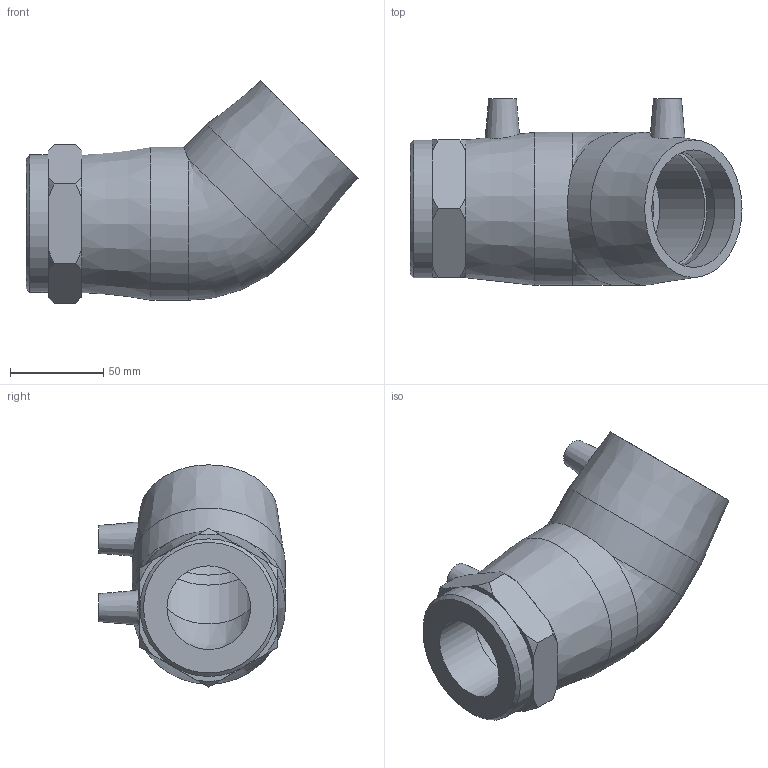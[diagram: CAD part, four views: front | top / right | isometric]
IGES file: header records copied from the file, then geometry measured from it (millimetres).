
Global section: file name: 493604063015.ipt; native system: Autodesk Inventor 2015; preprocessor: unknown; author: KIM; date: 20200202.122503; units: millimetre
Bounding box: 178 x 100 x 119.2 mm (x, y, z)
Volume: 459364 mm3; surface area: 86788 mm2
Topology: 1 solids, 2 shells, 61 faces, 150 edges, 100 vertices
Faces by surface type: plane 27, cone 17, revolution 9, cylinder 7, bspline 1
Full cylindrical faces by diameter (mm): 4 x2, 63 x2, 73.8 x1, 82 x2
